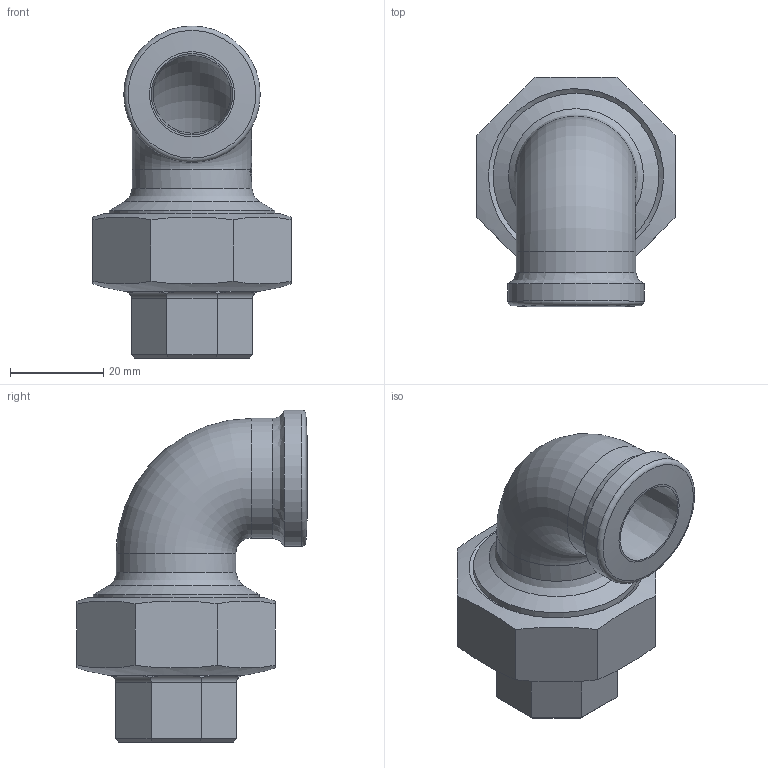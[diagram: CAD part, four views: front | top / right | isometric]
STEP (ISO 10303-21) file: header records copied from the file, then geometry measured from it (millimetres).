
FILE_DESCRIPTION((''),'2;1');
FILE_NAME('P:\Fastrack\53909_CRANE\Crane\Modified\Fig.261 Elbow Union\New 0.50 inch\261-0.50.stp','2009-09-18T09:22:10',('btaylor'),(''),'Autodesk Inventor 2008','Autodesk Inventor 2008','');
FILE_SCHEMA(('AUTOMOTIVE_DESIGN { 1 0 10303 214 1 1 1 1 }'));
Length unit declared in the file: millimetre
Products named in the file (1): 261-0.50
Bounding box: 42.42 x 49.21 x 71.03 mm (x, y, z)
Volume: 33597.6 mm3; surface area: 17354.2 mm2
Topology: 1 solids, 1 shells, 119 faces, 308 edges, 198 vertices
Faces by surface type: plane 61, bspline 22, cylinder 21, cone 9, torus 6
Full cylindrical faces by diameter (mm): 20.5 x1, 22.9 x1, 25.6 x2, 29.08 x1, 29.2 x1, 29.464 x1, 32.26 x1, 35.509 x2
Entity records: 4630 total; most frequent: CARTESIAN_POINT 2023, ORIENTED_EDGE 546, DIRECTION 454, EDGE_CURVE 273, VERTEX_POINT 190, AXIS2_PLACEMENT_3D 171, EDGE_LOOP 155, FACE_OUTER_BOUND 119
